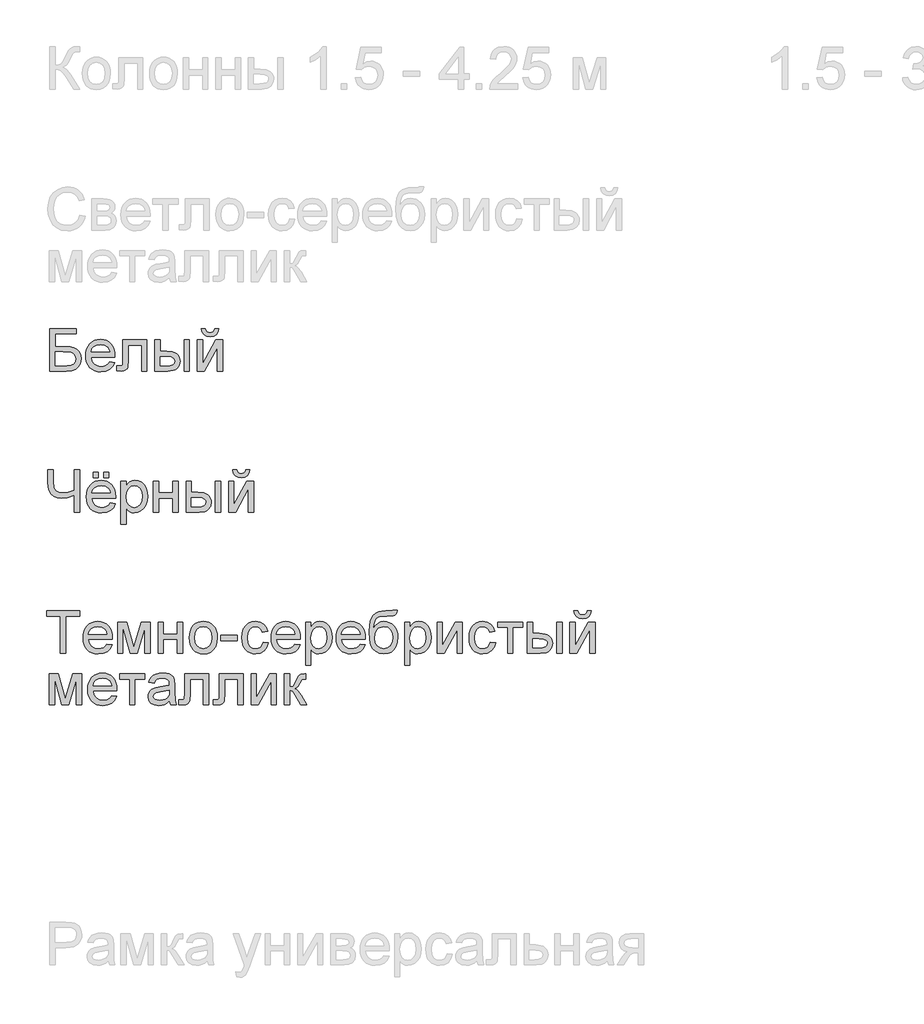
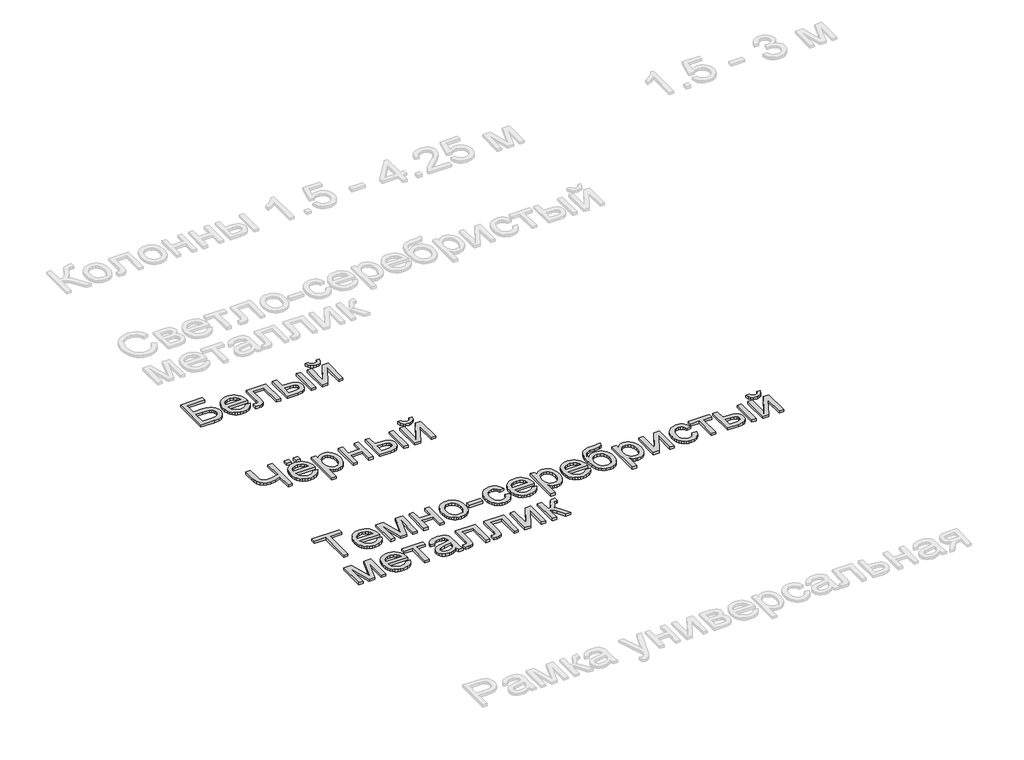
# One storey, part 8 of 168: 3 proxies.
"""IFC4 building model written with IfcOpenShell, lengths in millimetres."""

from ifc_helpers import new_model, si_unit, origin, origin_with_axes, place, context, project, spatial, polyline, outline, extrude, element, save

model = new_model("IFC4")

# Units and contexts
model_context = context("Model", 3, world=origin())
ifc_project = project(units=[si_unit("LENGTHUNIT", "METRE", prefix="MILLI")], contexts=[model_context])

# Site, building, storey
site = spatial("IfcSite", under=ifc_project)
building = spatial("IfcBuilding", under=site)
storey = spatial("IfcBuildingStorey", under=building, Name="Этаж 01", Elevation=0.0)

# Proxies
placement = place(None, origin())
element("IfcBuildingElementProxy", 1, Name="300 мм Arial 2", ObjectType="300 мм Arial 2", at=placement, inside=storey, context=model_context, shape_type="SweptSolid", body=[
    extrude(outline(polyline([(778.8177316, -38665.4933673), (967.1733131, -38665.4933673), (967.1733131, -38703.1644836), (816.4888479, -38703.1644836), (816.4888479, -38792.6333848), (887.0486145, -38792.6333848), (922.1261628, -38794.5463712), (949.2206717, -38800.2853303), (970.0243986, -38811.3401843), (986.2296004, -38829.2008551), (996.659055, -38852.1934798), (1000.1355399, -38878.6441953), (997.6615334, -38900.8550707), (990.2395142, -38921.5760241), (977.9062703, -38939.7218035), (960.69859, -38954.2071571), (934.155904, -38963.6985126), (893.8176433, -38966.8622977), (778.8177316, -38966.8622977), (778.8177316, -38665.4933673)]), holes=[polyline([(816.4888479, -38929.1911814), (897.2021576, -38929.1911814), (925.7314063, -38926.0825786), (946.130463, -38916.75677), (958.3809334, -38901.2137557), (962.4644236, -38879.4535357), (960.1283729, -38863.2483338), (953.1202209, -38849.9493997), (941.9458053, -38840.0901622), (927.1109638, -38834.2040503), (870.346772, -38830.3045011), (816.4888479, -38830.3045011), (816.4888479, -38929.1911814)])]), origin_with_axes(), (0.0, 0.0, 1.0), 20.0),
    extrude(outline(polyline([(1202.1763316, -38900.9378442), (1239.1116839, -38905.6467337), (1225.8035528, -38933.4770067), (1204.5675646, -38954.2807335), (1175.881966, -38967.2485738), (1140.2250036, -38971.5711873), (1116.8507014, -38969.7064854), (1096.0239819, -38964.1123798), (1077.7448453, -38954.7888705), (1062.0132914, -38941.7359575), (1049.3627493, -38925.3169242), (1040.3266478, -38905.8950541), (1034.9049869, -38883.4703472), (1033.0977666, -38858.0428036), (1034.923381, -38831.7530365), (1040.4002242, -38808.5810693), (1049.5282962, -38788.526902), (1062.307597, -38771.5905347), (1077.9977641, -38758.1352507), (1095.858435, -38748.5243336), (1115.8896096, -38742.7577833), (1138.0912881, -38740.8355999), (1159.5778958, -38742.7531848), (1179.008963, -38748.5059395), (1196.3844895, -38758.093864), (1211.7044753, -38771.5169583), (1224.2101639, -38788.4165374), (1233.1427986, -38808.4339165), (1238.5023794, -38831.5690955), (1240.2889063, -38857.8220744), (1240.0681771, -38867.9756174), (1070.7688829, -38867.9756174), (1077.2895913, -38896.1737724), (1092.4371325, -38916.9039228), (1114.29852, -38929.6510339), (1140.9607676, -38933.900071), (1161.0103364, -38931.9319023), (1177.8961199, -38926.0273963), (1191.6181184, -38915.8186709), (1202.1763316, -38900.9378442)]), holes=[polyline([(1070.7688829, -38830.3045011), (1202.61779, -38830.3045011), (1197.5226244, -38810.4020852), (1187.5346282, -38796.165052), (1165.5720731, -38782.9213001), (1137.9441353, -38778.5067162), (1112.5510805, -38782.0291863), (1091.5542157, -38792.5965966), (1076.9584975, -38809.068513), (1070.7688829, -38830.3045011)])]), origin_with_axes(), (0.0, 0.0, 1.0), 20.0),
    extrude(outline(polyline([(1296.7955808, -38745.5444894), (1466.3156041, -38745.5444894), (1466.3156041, -38966.6415685), (1428.6444878, -38966.6415685), (1428.6444878, -38783.2156057), (1334.4666971, -38783.2156057), (1334.4666971, -38888.7977384), (1331.9283113, -38937.5053145), (1327.1734365, -38948.5325773), (1317.9855837, -38958.069918), (1304.0428561, -38964.6642028), (1285.0233569, -38966.8622977), (1254.4155749, -38964.9493114), (1254.4155749, -38929.1911814), (1271.2645703, -38929.1911814), (1288.2975067, -38926.8735249), (1295.1033236, -38919.515885), (1296.7955808, -38886.6640228), (1296.7955808, -38745.5444894)])), origin_with_axes(), (0.0, 0.0, 1.0), 20.0),
    extrude(outline(polyline([(1730.0134183, -38745.5444894), (1767.6845346, -38745.5444894), (1767.6845346, -38966.8622977), (1730.0134183, -38966.8622977), (1730.0134183, -38745.5444894)])), origin_with_axes(), (0.0, 0.0, 1.0), 20.0),
    extrude(outline(polyline([(1522.8222786, -38745.5444894), (1560.4933949, -38745.5444894), (1560.4933949, -38825.5956116), (1607.0672555, -38825.5956116), (1647.3227428, -38830.3136982), (1663.539441, -38836.2113064), (1677.1487756, -38844.4679579), (1687.9162217, -38854.7985442), (1695.6072547, -38866.9179567), (1700.2218745, -38880.8261954), (1701.7600811, -38896.5232603), (1696.6005361, -38923.4798135), (1681.1219011, -38946.2241178), (1669.2600061, -38955.2533215), (1654.3125007, -38961.7027528), (1615.1606594, -38966.8622977), (1522.8222786, -38966.8622977), (1522.8222786, -38745.5444894)]), holes=[polyline([(1560.4933949, -38929.1911814), (1599.1945808, -38929.1911814), (1629.1953575, -38927.2138157), (1649.1529558, -38921.2817185), (1660.3549625, -38911.1557666), (1664.0889648, -38896.5968367), (1661.3206527, -38884.2911839), (1653.0157167, -38873.420271), (1635.2562134, -38865.8051137), (1604.1241995, -38863.2667279), (1560.4933949, -38863.2667279), (1560.4933949, -38929.1911814)])]), origin_with_axes(), (0.0, 0.0, 1.0), 20.0),
    extrude(outline(polyline([(1946.6223371, -38665.4933673), (1974.8756743, -38665.4933673), (1968.7964243, -38689.6172291), (1956.5919391, -38707.3951265), (1938.8140417, -38718.3488129), (1916.0145551, -38722.0000417), (1891.2744909, -38718.3764041), (1872.0894448, -38707.5054911), (1858.9744517, -38689.7551849), (1852.4445463, -38665.4933673), (1880.6978835, -38665.4933673), (1884.6710091, -38677.9001876), (1891.292885, -38686.7201584), (1900.6002995, -38691.990068), (1912.6300407, -38693.7467045), (1926.2048863, -38692.0452503), (1936.0273356, -38686.9408876), (1942.6492115, -38678.1760991), (1946.6223371, -38665.4933673)])), origin_with_axes(), (0.0, 0.0, 1.0), 20.0),
    extrude(outline(polyline([(1824.1912091, -38745.5444894), (1861.8623254, -38745.5444894), (1861.8623254, -38914.3287488), (1954.4214353, -38745.5444894), (2003.1290115, -38745.5444894), (2003.1290115, -38966.8622977), (1965.4578952, -38966.8622977), (1965.4578952, -38799.1081079), (1873.4873964, -38966.8622977), (1824.1912091, -38966.8622977), (1824.1912091, -38745.5444894)])), origin_with_axes(), (0.0, 0.0, 1.0), 20.0),
])
element("IfcBuildingElementProxy", 2, Name="300 мм Arial 2", ObjectType="300 мм Arial 2", at=placement, inside=storey, context=model_context, shape_type="SweptSolid", body=[
    extrude(outline(polyline([(990.7177608, -39966.8622977), (953.0466445, -39966.8622977), (953.0466445, -39846.1970033), (903.0882695, -39862.5309639), (859.7517705, -39867.9756174), (830.3855902, -39864.2508122), (804.6798358, -39853.0763966), (784.7590258, -39836.1722189), (772.7476786, -39815.2581275), (766.7052169, -39788.798215), (764.6910629, -39755.2565741), (764.6910629, -39665.4933673), (802.3621793, -39665.4933673), (802.3621793, -39750.1798026), (806.8871278, -39790.9135365), (812.5433135, -39804.968928), (820.4619734, -39814.8166691), (840.3827835, -39826.4325431), (863.9456252, -39830.3045011), (907.410883, -39825.6323998), (953.0466445, -39811.6160958), (953.0466445, -39665.4933673), (990.7177608, -39665.4933673), (990.7177608, -39966.8622977)])), origin_with_axes(), (0.0, 0.0, 1.0), 20.0),
    extrude(outline(polyline([(1206.8852212, -39900.9378442), (1243.8205735, -39905.6467337), (1230.5124423, -39933.4770067), (1209.2764541, -39954.2807335), (1180.5908555, -39967.2485738), (1144.9338932, -39971.5711873), (1121.5595909, -39969.7064854), (1100.7328714, -39964.1123798), (1082.4537348, -39954.7888705), (1066.722181, -39941.7359575), (1054.0716389, -39925.3169242), (1045.0355374, -39905.8950541), (1039.6138765, -39883.4703472), (1037.8066562, -39858.0428036), (1039.6322706, -39831.7530365), (1045.1091138, -39808.5810693), (1054.2371858, -39788.526902), (1067.0164866, -39771.5905347), (1082.7066537, -39758.1352507), (1100.5673245, -39748.5243336), (1120.5984992, -39742.7577833), (1142.8001776, -39740.8355999), (1164.2867854, -39742.7531848), (1183.7178525, -39748.5059395), (1201.093379, -39758.093864), (1216.4133648, -39771.5169583), (1228.9190534, -39788.4165374), (1237.8516881, -39808.4339165), (1243.2112689, -39831.5690955), (1244.9977959, -39857.8220744), (1244.7770667, -39867.9756174), (1075.4777725, -39867.9756174), (1081.9984808, -39896.1737724), (1097.146022, -39916.9039228), (1119.0074096, -39929.6510339), (1145.6696572, -39933.900071), (1165.7192259, -39931.9319023), (1182.6050095, -39926.0273963), (1196.3270079, -39915.8186709), (1206.8852212, -39900.9378442)]), holes=[polyline([(1075.4777725, -39830.3045011), (1207.3266795, -39830.3045011), (1202.2315139, -39810.4020852), (1192.2435177, -39796.165052), (1170.2809626, -39782.9213001), (1142.6530248, -39778.5067162), (1117.2599701, -39782.0291863), (1096.2631052, -39792.5965966), (1081.667387, -39809.068513), (1075.4777725, -39830.3045011)])]), origin_with_axes(), (0.0, 0.0, 1.0), 20.0),
    extrude(outline(polyline([(1084.8955515, -39722.0000417), (1084.8955515, -39684.3289254), (1122.5666679, -39684.3289254), (1122.5666679, -39722.0000417), (1084.8955515, -39722.0000417)])), origin_with_axes(), (0.0, 0.0, 1.0), 20.0),
    extrude(outline(polyline([(1160.2377842, -39722.0000417), (1160.2377842, -39684.3289254), (1197.9089005, -39684.3289254), (1197.9089005, -39722.0000417), (1160.2377842, -39722.0000417)])), origin_with_axes(), (0.0, 0.0, 1.0), 20.0),
    extrude(outline(polyline([(1282.6689122, -40051.6223094), (1282.6689122, -39745.5444894), (1320.3400285, -39745.5444894), (1320.3400285, -39782.4798418), (1332.6272871, -39764.2604859), (1346.3860737, -39751.2466604), (1362.4257287, -39743.438365), (1381.5555925, -39740.8355999), (1407.0314206, -39744.4776316), (1429.3066754, -39755.4037269), (1447.4432578, -39772.9516981), (1460.5030686, -39796.4593576), (1468.3941374, -39824.2160541), (1471.0244937, -39854.5111364), (1468.0538466, -39886.7284021), (1459.1419052, -39915.5427594), (1444.5737782, -39939.4918773), (1424.6345741, -39957.1134249), (1401.4120231, -39967.9567467), (1376.9938557, -39971.5711873), (1359.6758108, -39969.1523632), (1344.2155699, -39961.8958908), (1330.9810152, -39950.9422044), (1320.3400285, -39937.4317381), (1320.3400285, -40051.6223094), (1282.6689122, -40051.6223094)]), holes=[polyline([(1320.3400285, -39857.9692272), (1324.4143216, -39891.7407943), (1336.6372008, -39915.3588184), (1354.6726157, -39929.2647578), (1376.1845153, -39933.900071), (1398.0459029, -39929.0992109), (1416.5411702, -39914.6966308), (1429.1503256, -39890.214084), (1433.3533774, -39855.173324), (1429.2514931, -39821.5856978), (1416.9458404, -39797.63658), (1398.9380167, -39783.2891821), (1377.7296197, -39778.5067162), (1356.4384492, -39783.5926848), (1337.7408468, -39798.8505905), (1324.6902331, -39823.8021869), (1320.3400285, -39857.9692272)])]), origin_with_axes(), (0.0, 0.0, 1.0), 20.0),
    extrude(outline(polyline([(1513.4044995, -39745.5444894), (1551.0756158, -39745.5444894), (1551.0756158, -39830.3045011), (1649.9622961, -39830.3045011), (1649.9622961, -39745.5444894), (1687.6334124, -39745.5444894), (1687.6334124, -39966.8622977), (1649.9622961, -39966.8622977), (1649.9622961, -39867.9756174), (1551.0756158, -39867.9756174), (1551.0756158, -39966.8622977), (1513.4044995, -39966.8622977), (1513.4044995, -39745.5444894)])), origin_with_axes(), (0.0, 0.0, 1.0), 20.0),
    extrude(outline(polyline([(1951.3312266, -39745.5444894), (1989.0023429, -39745.5444894), (1989.0023429, -39966.8622977), (1951.3312266, -39966.8622977), (1951.3312266, -39745.5444894)])), origin_with_axes(), (0.0, 0.0, 1.0), 20.0),
    extrude(outline(polyline([(1744.1400869, -39745.5444894), (1781.8112032, -39745.5444894), (1781.8112032, -39825.5956116), (1828.3850638, -39825.5956116), (1868.6405511, -39830.3136982), (1884.8572493, -39836.2113064), (1898.4665839, -39844.4679579), (1909.23403, -39854.7985442), (1916.925063, -39866.9179567), (1921.5396828, -39880.8261954), (1923.0778894, -39896.5232603), (1917.9183444, -39923.4798135), (1902.4397094, -39946.2241178), (1890.5778143, -39955.2533215), (1875.630309, -39961.7027528), (1836.4784677, -39966.8622977), (1744.1400869, -39966.8622977), (1744.1400869, -39745.5444894)]), holes=[polyline([(1781.8112032, -39929.1911814), (1820.5123891, -39929.1911814), (1850.5131658, -39927.2138157), (1870.4707641, -39921.2817185), (1881.6727708, -39911.1557666), (1885.4067731, -39896.5968367), (1882.638461, -39884.2911839), (1874.333525, -39873.420271), (1856.5740217, -39865.8051137), (1825.4420078, -39863.2667279), (1781.8112032, -39863.2667279), (1781.8112032, -39929.1911814)])]), origin_with_axes(), (0.0, 0.0, 1.0), 20.0),
    extrude(outline(polyline([(2045.5090174, -39745.5444894), (2083.1801337, -39745.5444894), (2083.1801337, -39914.3287488), (2175.7392436, -39745.5444894), (2224.4468198, -39745.5444894), (2224.4468198, -39966.8622977), (2186.7757035, -39966.8622977), (2186.7757035, -39799.1081079), (2094.8052047, -39966.8622977), (2045.5090174, -39966.8622977), (2045.5090174, -39745.5444894)])), origin_with_axes(), (0.0, 0.0, 1.0), 20.0),
    extrude(outline(polyline([(2167.9401454, -39665.4933673), (2196.1934826, -39665.4933673), (2190.1142326, -39689.6172291), (2177.9097474, -39707.3951265), (2160.13185, -39718.3488129), (2137.3323634, -39722.0000417), (2112.5922992, -39718.3764041), (2093.4072531, -39707.5054911), (2080.29226, -39689.7551849), (2073.7623546, -39665.4933673), (2102.0156918, -39665.4933673), (2105.9888174, -39677.9001876), (2112.6106933, -39686.7201584), (2121.9181078, -39691.990068), (2133.947849, -39693.7467045), (2147.5226946, -39692.0452503), (2157.3451439, -39686.9408876), (2163.9670198, -39678.1760991), (2167.9401454, -39665.4933673)])), origin_with_axes(), (0.0, 0.0, 1.0), 20.0),
])
element("IfcBuildingElementProxy", 3, Name="300 мм Arial 2", ObjectType="300 мм Arial 2", at=placement, inside=storey, context=model_context, shape_type="SweptSolid", body=[
    extrude(outline(polyline([(854.1599642, -40966.8622977), (854.1599642, -40703.1644836), (755.2732839, -40703.1644836), (755.2732839, -40665.4933673), (990.7177608, -40665.4933673), (990.7177608, -40703.1644836), (891.8310805, -40703.1644836), (891.8310805, -40966.8622977), (854.1599642, -40966.8622977)])), origin_with_axes(), (0.0, 0.0, 1.0), 20.0),
    extrude(outline(polyline([(1183.3407735, -40900.9378442), (1220.2761258, -40905.6467337), (1206.9679946, -40933.4770067), (1185.7320064, -40954.2807335), (1157.0464079, -40967.2485738), (1121.3894455, -40971.5711873), (1098.0151432, -40969.7064854), (1077.1884238, -40964.1123798), (1058.9092871, -40954.7888705), (1043.1777333, -40941.7359575), (1030.5271912, -40925.3169242), (1021.4910897, -40905.8950541), (1016.0694288, -40883.4703472), (1014.2622085, -40858.0428036), (1016.0878229, -40831.7530365), (1021.5646661, -40808.5810693), (1030.6927381, -40788.526902), (1043.4720389, -40771.5905347), (1059.162206, -40758.1352507), (1077.0228769, -40748.5243336), (1097.0540515, -40742.7577833), (1119.2557299, -40740.8355999), (1140.7423377, -40742.7531848), (1160.1734048, -40748.5059395), (1177.5489313, -40758.093864), (1192.8689171, -40771.5169583), (1205.3746057, -40788.4165374), (1214.3072404, -40808.4339165), (1219.6668212, -40831.5690955), (1221.4533482, -40857.8220744), (1221.232619, -40867.9756174), (1051.9333248, -40867.9756174), (1058.4540331, -40896.1737724), (1073.6015743, -40916.9039228), (1095.4629619, -40929.6510339), (1122.1252095, -40933.900071), (1142.1747782, -40931.9319023), (1159.0605618, -40926.0273963), (1172.7825602, -40915.8186709), (1183.3407735, -40900.9378442)]), holes=[polyline([(1051.9333248, -40830.3045011), (1183.7822319, -40830.3045011), (1178.6870662, -40810.4020852), (1168.6990701, -40796.165052), (1146.7365149, -40782.9213001), (1119.1085771, -40778.5067162), (1093.7155224, -40782.0291863), (1072.7186575, -40792.5965966), (1058.1229394, -40809.068513), (1051.9333248, -40830.3045011)])]), origin_with_axes(), (0.0, 0.0, 1.0), 20.0),
    extrude(outline(polyline([(1259.1244645, -40745.5444894), (1323.945272, -40745.5444894), (1373.903647, -40922.7164583), (1427.7615711, -40745.5444894), (1489.8600518, -40745.5444894), (1489.8600518, -40966.8622977), (1452.1889355, -40966.8622977), (1452.1889355, -40788.6602593), (1398.0367058, -40966.8622977), (1348.5933657, -40966.8622977), (1296.7955808, -40780.125397), (1296.7955808, -40966.8622977), (1259.1244645, -40966.8622977), (1259.1244645, -40745.5444894)])), origin_with_axes(), (0.0, 0.0, 1.0), 20.0),
    extrude(outline(polyline([(1546.3667263, -40745.5444894), (1584.0378426, -40745.5444894), (1584.0378426, -40830.3045011), (1682.9245229, -40830.3045011), (1682.9245229, -40745.5444894), (1720.5956392, -40745.5444894), (1720.5956392, -40966.8622977), (1682.9245229, -40966.8622977), (1682.9245229, -40867.9756174), (1584.0378426, -40867.9756174), (1584.0378426, -40966.8622977), (1546.3667263, -40966.8622977), (1546.3667263, -40745.5444894)])), origin_with_axes(), (0.0, 0.0, 1.0), 20.0),
    extrude(outline(polyline([(1767.6845346, -40856.2033936), (1769.7216811, -40827.5407876), (1775.8331208, -40802.8421102), (1786.0188535, -40782.1073612), (1800.2788794, -40765.3365408), (1814.6354742, -40754.6173791), (1830.4819912, -40746.9608351), (1847.8184302, -40742.3669087), (1866.6447913, -40740.8355999), (1887.4278248, -40742.7003018), (1906.2196969, -40748.2944073), (1923.0204078, -40757.6179167), (1937.8299574, -40770.6708297), (1949.9171802, -40787.0116881), (1958.5509107, -40806.1990334), (1963.7311491, -40828.2328656), (1965.4578952, -40853.1131848), (1962.4044746, -40891.1705772), (1953.244213, -40920.1412843), (1938.2438246, -40941.837125), (1917.670024, -40958.069918), (1893.2334625, -40968.19587), (1866.6447913, -40971.5711873), (1845.5582552, -40969.7133832), (1826.5916391, -40964.139971), (1809.744943, -40954.8509506), (1795.0181668, -40941.8463221), (1783.0597027, -40925.3468146), (1774.5179427, -40905.5731573), (1769.3928866, -40882.5253503), (1767.6845346, -40856.2033936)]), holes=[polyline([(1805.3556509, -40856.1298172), (1809.7150525, -40890.2232811), (1822.7932575, -40914.5126898), (1842.4749442, -40929.0532257), (1866.6447913, -40933.900071), (1890.7042738, -40929.0256345), (1910.3491723, -40914.4023252), (1923.4273773, -40889.7910197), (1927.7867789, -40854.9525948), (1923.3997861, -40821.8524123), (1910.2388077, -40797.8940973), (1890.566318, -40783.3535615), (1866.6447913, -40778.5067162), (1842.4749442, -40783.3351674), (1822.7932575, -40797.8205209), (1809.7150525, -40822.0547474), (1805.3556509, -40856.1298172)])]), origin_with_axes(), (0.0, 0.0, 1.0), 20.0),
    extrude(outline(polyline([(1989.0023429, -40877.3933965), (1989.0023429, -40839.7222802), (2106.7245814, -40839.7222802), (2106.7245814, -40877.3933965), (1989.0023429, -40877.3933965)])), origin_with_axes(), (0.0, 0.0, 1.0), 20.0),
    extrude(outline(polyline([(2290.3712733, -40886.8111756), (2328.0423897, -40891.5200651), (2317.5393587, -40925.0249178), (2297.8024896, -40950.3443962), (2270.6895866, -40966.2644895), (2238.0584536, -40971.5711873), (2216.9305308, -40969.720281), (2197.9869073, -40964.1675621), (2181.2275832, -40954.9130307), (2166.6525584, -40941.9566867), (2154.8550426, -40925.5422519), (2146.4282457, -40905.9134482), (2141.3721675, -40883.0702755), (2139.6868081, -40857.012734), (2142.5654847, -40823.4894872), (2151.2015146, -40794.4360066), (2165.7328534, -40770.9743324), (2186.2974569, -40754.2265045), (2210.8995653, -40744.1833261), (2237.5434188, -40740.8355999), (2269.3744085, -40745.4341248), (2294.8226455, -40759.2296997), (2313.0787895, -40781.4865604), (2323.3335001, -40811.468943), (2285.6623838, -40816.1778325), (2278.8289757, -40799.7427044), (2268.187989, -40787.9612835), (2254.3280349, -40780.870358), (2237.8377244, -40778.5067162), (2213.4931334, -40783.1604234), (2194.1701316, -40797.1215452), (2181.5609762, -40821.1442394), (2177.3579244, -40855.9826644), (2181.4690057, -40891.2901389), (2193.8022496, -40915.3956066), (2212.7757635, -40929.2739549), (2236.8076548, -40933.900071), (2256.3145976, -40931.0121973), (2272.3082674, -40922.3485763), (2283.9425355, -40907.6884788), (2290.3712733, -40886.8111756)])), origin_with_axes(), (0.0, 0.0, 1.0), 20.0),
    extrude(outline(polyline([(2515.9565128, -40900.9378442), (2552.8918651, -40905.6467337), (2539.5837339, -40933.4770067), (2518.3477458, -40954.2807335), (2489.6621472, -40967.2485738), (2454.0051848, -40971.5711873), (2430.6308825, -40969.7064854), (2409.8041631, -40964.1123798), (2391.5250264, -40954.7888705), (2375.7934726, -40941.7359575), (2363.1429305, -40925.3169242), (2354.106829, -40905.8950541), (2348.6851681, -40883.4703472), (2346.8779478, -40858.0428036), (2348.7035622, -40831.7530365), (2354.1804054, -40808.5810693), (2363.3084774, -40788.526902), (2376.0877782, -40771.5905347), (2391.7779453, -40758.1352507), (2409.6386162, -40748.5243336), (2429.6697908, -40742.7577833), (2451.8714692, -40740.8355999), (2473.358077, -40742.7531848), (2492.7891441, -40748.5059395), (2510.1646706, -40758.093864), (2525.4846565, -40771.5169583), (2537.990345, -40788.4165374), (2546.9229797, -40808.4339165), (2552.2825605, -40831.5690955), (2554.0690875, -40857.8220744), (2553.8483583, -40867.9756174), (2384.5490641, -40867.9756174), (2391.0697725, -40896.1737724), (2406.2173136, -40916.9039228), (2428.0787012, -40929.6510339), (2454.7409488, -40933.900071), (2474.7905175, -40931.9319023), (2491.6763011, -40926.0273963), (2505.3982995, -40915.8186709), (2515.9565128, -40900.9378442)]), holes=[polyline([(2384.5490641, -40830.3045011), (2516.3979712, -40830.3045011), (2511.3028055, -40810.4020852), (2501.3148094, -40796.165052), (2479.3522543, -40782.9213001), (2451.7243164, -40778.5067162), (2426.3312617, -40782.0291863), (2405.3343968, -40792.5965966), (2390.7386787, -40809.068513), (2384.5490641, -40830.3045011)])]), origin_with_axes(), (0.0, 0.0, 1.0), 20.0),
    extrude(outline(polyline([(2591.7402038, -41051.6223094), (2591.7402038, -40745.5444894), (2629.4113201, -40745.5444894), (2629.4113201, -40782.4798418), (2641.6985787, -40764.2604859), (2655.4573654, -40751.2466604), (2671.4970203, -40743.438365), (2690.6268841, -40740.8355999), (2716.1027123, -40744.4776316), (2738.3779671, -40755.4037269), (2756.5145494, -40772.9516981), (2769.5743603, -40796.4593576), (2777.4654291, -40824.2160541), (2780.0957853, -40854.5111364), (2777.1251382, -40886.7284021), (2768.2131969, -40915.5427594), (2753.6450699, -40939.4918773), (2733.7058657, -40957.1134249), (2710.4833148, -40967.9567467), (2686.0651474, -40971.5711873), (2668.7471024, -40969.1523632), (2653.2868616, -40961.8958908), (2640.0523068, -40950.9422044), (2629.4113201, -40937.4317381), (2629.4113201, -41051.6223094), (2591.7402038, -41051.6223094)]), holes=[polyline([(2629.4113201, -40857.9692272), (2633.4856132, -40891.7407943), (2645.7084925, -40915.3588184), (2663.7439073, -40929.2647578), (2685.255807, -40933.900071), (2707.1171945, -40929.0992109), (2725.6124618, -40914.6966308), (2738.2216172, -40890.214084), (2742.424669, -40855.173324), (2738.3227848, -40821.5856978), (2726.017132, -40797.63658), (2708.0093084, -40783.2891821), (2686.8009113, -40778.5067162), (2665.5097409, -40783.5926848), (2646.8121385, -40798.8505905), (2633.7615247, -40823.8021869), (2629.4113201, -40857.9692272)])]), origin_with_axes(), (0.0, 0.0, 1.0), 20.0),
    extrude(outline(polyline([(2977.4276875, -40900.9378442), (3014.3630399, -40905.6467337), (3001.0549087, -40933.4770067), (2979.8189205, -40954.2807335), (2951.1333219, -40967.2485738), (2915.4763595, -40971.5711873), (2892.1020573, -40969.7064854), (2871.2753378, -40964.1123798), (2852.9962012, -40954.7888705), (2837.2646474, -40941.7359575), (2824.6141053, -40925.3169242), (2815.5780038, -40905.8950541), (2810.1563429, -40883.4703472), (2808.3491226, -40858.0428036), (2810.174737, -40831.7530365), (2815.6515802, -40808.5810693), (2824.7796522, -40788.526902), (2837.558953, -40771.5905347), (2853.2491201, -40758.1352507), (2871.1097909, -40748.5243336), (2891.1409656, -40742.7577833), (2913.342644, -40740.8355999), (2934.8292518, -40742.7531848), (2954.2603189, -40748.5059395), (2971.6358454, -40758.093864), (2986.9558312, -40771.5169583), (2999.4615198, -40788.4165374), (3008.3941545, -40808.4339165), (3013.7537353, -40831.5690955), (3015.5402622, -40857.8220744), (3015.319533, -40867.9756174), (2846.0202389, -40867.9756174), (2852.5409472, -40896.1737724), (2867.6884884, -40916.9039228), (2889.5498759, -40929.6510339), (2916.2121235, -40933.900071), (2936.2616923, -40931.9319023), (2953.1474759, -40926.0273963), (2966.8694743, -40915.8186709), (2977.4276875, -40900.9378442)]), holes=[polyline([(2846.0202389, -40830.3045011), (2977.8691459, -40830.3045011), (2972.7739803, -40810.4020852), (2962.7859841, -40796.165052), (2940.823429, -40782.9213001), (2913.1954912, -40778.5067162), (2887.8024365, -40782.0291863), (2866.8055716, -40792.5965966), (2852.2098534, -40809.068513), (2846.0202389, -40830.3045011)])]), origin_with_axes(), (0.0, 0.0, 1.0), 20.0),
    extrude(outline(polyline([(3208.6047333, -40660.7844777), (3241.5669601, -40660.7844777), (3237.9985047, -40678.6911339), (3231.8548754, -40690.1782492), (3223.3384072, -40696.974869), (3212.6514353, -40700.8100388), (3166.5190331, -40703.1644836), (3128.2133203, -40705.3349874), (3104.3837641, -40711.8464987), (3090.1283368, -40723.1404759), (3080.5450108, -40739.6583775), (3074.9072192, -40761.5289621), (3072.4883951, -40788.8809885), (3087.6359362, -40767.8381383), (3105.1195281, -40752.8285529), (3124.9575647, -40743.8338382), (3147.1684401, -40740.8355999), (3167.6916569, -40742.7416885), (3186.3662667, -40748.4599542), (3203.1922695, -40757.9903972), (3218.1696652, -40771.3330173), (3230.4661209, -40787.9267945), (3239.2493035, -40807.2107089), (3244.5192131, -40829.1847603), (3246.2758496, -40853.8489488), (3242.7901677, -40889.8094138), (3232.333122, -40918.6697564), (3217.0936103, -40941.101361), (3199.2605306, -40957.7756125), (3176.6725761, -40968.1222936), (3147.1684401, -40971.5711873), (3113.1669467, -40967.1290122), (3087.6819215, -40953.8024869), (3068.9291368, -40933.5505831), (3055.1243649, -40908.3322723), (3046.6262908, -40870.3576533), (3043.7935995, -40811.836825), (3045.5801264, -40772.1722481), (3050.9397072, -40739.55721), (3059.8723419, -40713.9917106), (3072.3780305, -40695.4757499), (3088.5901302, -40682.3584575), (3108.6419982, -40672.9889629), (3132.5336345, -40667.3672662), (3160.2650391, -40665.4933673), (3202.2035866, -40664.6472387), (3208.6047333, -40660.7844777)]), holes=[polyline([(3208.6047333, -40852.6717264), (3204.5212432, -40823.0296347), (3192.2707727, -40799.2920489), (3172.589086, -40783.7030494), (3146.2119469, -40778.5067162), (3118.7127678, -40783.997355), (3107.6257242, -40790.8606535), (3098.3137112, -40800.4692713), (3085.6769646, -40826.1198434), (3081.4647158, -40859.1464495), (3086.118423, -40891.1613802), (3100.0795447, -40914.6598426), (3120.8648775, -40929.0900139), (3145.9912177, -40933.900071), (3171.2463167, -40928.3358558), (3191.2407031, -40911.6432103), (3204.2637258, -40885.7719089), (3208.6047333, -40852.6717264)])]), origin_with_axes(), (0.0, 0.0, 1.0), 20.0),
    extrude(outline(polyline([(3293.364745, -41051.6223094), (3293.364745, -40745.5444894), (3331.0358613, -40745.5444894), (3331.0358613, -40782.4798418), (3343.3231199, -40764.2604859), (3357.0819066, -40751.2466604), (3373.1215615, -40743.438365), (3392.2514253, -40740.8355999), (3417.7272535, -40744.4776316), (3440.0025083, -40755.4037269), (3458.1390906, -40772.9516981), (3471.1989015, -40796.4593576), (3479.0899703, -40824.2160541), (3481.7203265, -40854.5111364), (3478.7496794, -40886.7284021), (3469.8377381, -40915.5427594), (3455.2696111, -40939.4918773), (3435.3304069, -40957.1134249), (3412.107856, -40967.9567467), (3387.6896886, -40971.5711873), (3370.3716436, -40969.1523632), (3354.9114028, -40961.8958908), (3341.676848, -40950.9422044), (3331.0358613, -40937.4317381), (3331.0358613, -41051.6223094), (3293.364745, -41051.6223094)]), holes=[polyline([(3331.0358613, -40857.9692272), (3335.1101544, -40891.7407943), (3347.3330337, -40915.3588184), (3365.3684485, -40929.2647578), (3386.8803482, -40933.900071), (3408.7417357, -40929.0992109), (3427.237003, -40914.6966308), (3439.8461584, -40890.214084), (3444.0492102, -40855.173324), (3439.947326, -40821.5856978), (3427.6416732, -40797.63658), (3409.6338496, -40783.2891821), (3388.4254525, -40778.5067162), (3367.1342821, -40783.5926848), (3348.4366797, -40798.8505905), (3335.3860659, -40823.8021869), (3331.0358613, -40857.9692272)])]), origin_with_axes(), (0.0, 0.0, 1.0), 20.0),
    extrude(outline(polyline([(3524.1003324, -40745.5444894), (3561.7714487, -40745.5444894), (3561.7714487, -40914.3287488), (3654.3305587, -40745.5444894), (3703.0381348, -40745.5444894), (3703.0381348, -40966.8622977), (3665.3670185, -40966.8622977), (3665.3670185, -40799.1081079), (3573.3965197, -40966.8622977), (3524.1003324, -40966.8622977), (3524.1003324, -40745.5444894)])), origin_with_axes(), (0.0, 0.0, 1.0), 20.0),
    extrude(outline(polyline([(3900.8114954, -40886.8111756), (3938.4826117, -40891.5200651), (3927.9795808, -40925.0249178), (3908.2427117, -40950.3443962), (3881.1298087, -40966.2644895), (3848.4986757, -40971.5711873), (3827.3707529, -40969.720281), (3808.4271294, -40964.1675621), (3791.6678052, -40954.9130307), (3777.0927805, -40941.9566867), (3765.2952647, -40925.5422519), (3756.8684678, -40905.9134482), (3751.8123896, -40883.0702755), (3750.1270302, -40857.012734), (3753.0057068, -40823.4894872), (3761.6417367, -40794.4360066), (3776.1730755, -40770.9743324), (3796.737679, -40754.2265045), (3821.3397874, -40744.1833261), (3847.9836409, -40740.8355999), (3879.8146306, -40745.4341248), (3905.2628676, -40759.2296997), (3923.5190116, -40781.4865604), (3933.7737222, -40811.468943), (3896.1026059, -40816.1778325), (3889.2691978, -40799.7427044), (3878.6282111, -40787.9612835), (3864.768257, -40780.870358), (3848.2779465, -40778.5067162), (3823.9333555, -40783.1604234), (3804.6103537, -40797.1215452), (3792.0011983, -40821.1442394), (3787.7981465, -40855.9826644), (3791.9092278, -40891.2901389), (3804.2424717, -40915.3956066), (3823.2159856, -40929.2739549), (3847.2478769, -40933.900071), (3866.7548197, -40931.0121973), (3882.7484895, -40922.3485763), (3894.3827576, -40907.6884788), (3900.8114954, -40886.8111756)])), origin_with_axes(), (0.0, 0.0, 1.0), 20.0),
    extrude(outline(polyline([(3952.6092804, -40745.5444894), (4131.5470828, -40745.5444894), (4131.5470828, -40783.2156057), (4060.9137397, -40783.2156057), (4060.9137397, -40966.8622977), (4023.2426234, -40966.8622977), (4023.2426234, -40783.2156057), (3952.6092804, -40783.2156057), (3952.6092804, -40745.5444894)])), origin_with_axes(), (0.0, 0.0, 1.0), 20.0),
    extrude(outline(polyline([(4371.7004493, -40745.5444894), (4409.3715656, -40745.5444894), (4409.3715656, -40966.8622977), (4371.7004493, -40966.8622977), (4371.7004493, -40745.5444894)])), origin_with_axes(), (0.0, 0.0, 1.0), 20.0),
    extrude(outline(polyline([(4164.5093096, -40745.5444894), (4202.1804259, -40745.5444894), (4202.1804259, -40825.5956116), (4248.7542865, -40825.5956116), (4289.0097738, -40830.3136982), (4305.226472, -40836.2113064), (4318.8358066, -40844.4679579), (4329.6032527, -40854.7985442), (4337.2942857, -40866.9179567), (4341.9089054, -40880.8261954), (4343.447112, -40896.5232603), (4338.287567, -40923.4798135), (4322.8089321, -40946.2241178), (4310.947037, -40955.2533215), (4295.9995317, -40961.7027528), (4256.8476904, -40966.8622977), (4164.5093096, -40966.8622977), (4164.5093096, -40745.5444894)]), holes=[polyline([(4202.1804259, -40929.1911814), (4240.8816118, -40929.1911814), (4270.8823885, -40927.2138157), (4290.8399867, -40921.2817185), (4302.0419935, -40911.1557666), (4305.7759957, -40896.5968367), (4303.0076837, -40884.2911839), (4294.7027477, -40873.420271), (4276.9432443, -40865.8051137), (4245.8112305, -40863.2667279), (4202.1804259, -40863.2667279), (4202.1804259, -40929.1911814)])]), origin_with_axes(), (0.0, 0.0, 1.0), 20.0),
    extrude(outline(polyline([(4465.87824, -40745.5444894), (4503.5493563, -40745.5444894), (4503.5493563, -40914.3287488), (4596.1084663, -40745.5444894), (4644.8160425, -40745.5444894), (4644.8160425, -40966.8622977), (4607.1449262, -40966.8622977), (4607.1449262, -40799.1081079), (4515.1744274, -40966.8622977), (4465.87824, -40966.8622977), (4465.87824, -40745.5444894)])), origin_with_axes(), (0.0, 0.0, 1.0), 20.0),
    extrude(outline(polyline([(4588.309368, -40665.4933673), (4616.5627052, -40665.4933673), (4610.4834553, -40689.6172291), (4598.2789701, -40707.3951265), (4580.5010727, -40718.3488129), (4557.701586, -40722.0000417), (4532.9615218, -40718.3764041), (4513.7764758, -40707.5054911), (4500.6614827, -40689.7551849), (4494.1315773, -40665.4933673), (4522.3849145, -40665.4933673), (4526.35804, -40677.9001876), (4532.9799159, -40686.7201584), (4542.2873304, -40691.990068), (4554.3170717, -40693.7467045), (4567.8919173, -40692.0452503), (4577.7143666, -40686.9408876), (4584.3362425, -40678.1760991), (4588.309368, -40665.4933673)])), origin_with_axes(), (0.0, 0.0, 1.0), 20.0),
    extrude(outline(polyline([(774.108842, -41111.468943), (838.9296496, -41111.468943), (888.8880245, -41288.6409118), (942.7459486, -41111.468943), (1004.8444294, -41111.468943), (1004.8444294, -41332.7867513), (967.1733131, -41332.7867513), (967.1733131, -41154.5847128), (913.0210834, -41332.7867513), (863.5777433, -41332.7867513), (811.7799583, -41146.0498505), (811.7799583, -41332.7867513), (774.108842, -41332.7867513), (774.108842, -41111.468943)])), origin_with_axes(), (0.0, 0.0, 1.0), 20.0),
    extrude(outline(polyline([(1216.3030002, -41266.8622977), (1253.2383525, -41271.5711873), (1239.9302214, -41299.4014602), (1218.6942332, -41320.205187), (1190.0086346, -41333.1730274), (1154.3516722, -41337.4956408), (1130.97737, -41335.6309389), (1110.1506505, -41330.0368334), (1091.8715139, -41320.713324), (1076.1399601, -41307.660411), (1063.489418, -41291.2413777), (1054.4533164, -41271.8195076), (1049.0316555, -41249.3948008), (1047.2244352, -41223.9672571), (1049.0500496, -41197.67749), (1054.5268928, -41174.5055228), (1063.6549649, -41154.4513556), (1076.4342657, -41137.5149882), (1092.1244328, -41124.0597043), (1109.9851036, -41114.4487871), (1130.0162783, -41108.6822369), (1152.2179567, -41106.7600534), (1173.7045644, -41108.6776383), (1193.1356316, -41114.430393), (1210.5111581, -41124.0183175), (1225.8311439, -41137.4414118), (1238.3368325, -41154.340991), (1247.2694672, -41174.35837), (1252.629048, -41197.493549), (1254.4155749, -41223.7465279), (1254.1948457, -41233.900071), (1084.8955515, -41233.900071), (1091.4162599, -41262.0982259), (1106.5638011, -41282.8283763), (1128.4251886, -41295.5754875), (1155.0874362, -41299.8245245), (1175.137005, -41297.8563558), (1192.0227885, -41291.9518498), (1205.744787, -41281.7431244), (1216.3030002, -41266.8622977)]), holes=[polyline([(1084.8955515, -41196.2289547), (1216.7444586, -41196.2289547), (1211.649293, -41176.3265387), (1201.6612968, -41162.0895055), (1179.6987417, -41148.8457537), (1152.0708039, -41144.4311697), (1126.6777492, -41147.9536398), (1105.6808843, -41158.5210502), (1091.0851661, -41174.9929665), (1084.8955515, -41196.2289547)])]), origin_with_axes(), (0.0, 0.0, 1.0), 20.0),
    extrude(outline(polyline([(1273.2511331, -41111.468943), (1452.1889355, -41111.468943), (1452.1889355, -41149.1400593), (1381.5555925, -41149.1400593), (1381.5555925, -41332.7867513), (1343.8844762, -41332.7867513), (1343.8844762, -41149.1400593), (1273.2511331, -41149.1400593), (1273.2511331, -41111.468943)])), origin_with_axes(), (0.0, 0.0, 1.0), 20.0),
    extrude(outline(polyline([(1626.4178484, -41304.533414), (1608.4192218, -41319.9660637), (1589.8871663, -41330.0644245), (1570.3986176, -41335.6378367), (1549.5305115, -41337.4956408), (1518.0490097, -41333.0258746), (1494.8264588, -41319.6165758), (1480.5066521, -41299.2543074), (1475.7333832, -41273.925632), (1477.536005, -41258.3090413), (1482.9438703, -41244.1271904), (1491.2855946, -41231.9870846), (1501.8897931, -41222.4957291), (1528.2669321, -41210.1348941), (1560.8612769, -41204.4695114), (1599.3785218, -41198.509823), (1626.1971193, -41191.5200651), (1626.4178484, -41183.1323556), (1623.8242804, -41166.3201485), (1616.0435762, -41155.3204768), (1598.6427578, -41147.1534965), (1574.3993343, -41144.4311697), (1551.9585326, -41146.2429886), (1536.2867596, -41151.678445), (1525.5997877, -41161.7308206), (1518.1133891, -41177.3933965), (1480.4422728, -41172.684507), (1486.9813752, -41152.0831152), (1496.7394452, -41135.8963075), (1510.6269905, -41123.5170783), (1529.5545191, -41114.3384225), (1552.7034937, -41108.6546457), (1579.2553767, -41106.7600534), (1604.7220078, -41108.4339165), (1624.9095323, -41113.4555057), (1640.1306498, -41121.0062837), (1650.6980601, -41130.2677129), (1657.7062121, -41141.71804), (1662.2495548, -41155.8355116), (1664.0889648, -41188.7977384), (1664.0889648, -41235.6659045), (1666.0019511, -41301.1121115), (1673.5067438, -41332.7867513), (1635.8356275, -41332.7867513), (1626.4178484, -41304.533414)]), holes=[polyline([(1626.4178484, -41229.1911814), (1565.6437428, -41240.7426761), (1533.2333391, -41246.8495172), (1518.5548475, -41256.7823311), (1513.4044995, -41271.2768817), (1516.2095997, -41282.4788884), (1524.6249004, -41291.6575442), (1538.4664605, -41297.7827794), (1557.550339, -41299.8245245), (1577.7838487, -41297.5712473), (1595.6629137, -41290.8114156), (1610.1574643, -41280.8510106), (1620.2374309, -41268.9960133), (1624.7071972, -41256.7823311), (1626.1971193, -41239.8597593), (1626.4178484, -41229.1911814)])]), origin_with_axes(), (0.0, 0.0, 1.0), 20.0),
    extrude(outline(polyline([(1734.7223078, -41111.468943), (1904.2423312, -41111.468943), (1904.2423312, -41332.5660221), (1866.5712149, -41332.5660221), (1866.5712149, -41149.1400593), (1772.3934241, -41149.1400593), (1772.3934241, -41254.7221919), (1769.8550384, -41303.4297681), (1765.1001636, -41314.4570309), (1755.9123108, -41323.9943716), (1741.9695831, -41330.5886563), (1722.950084, -41332.7867513), (1692.342302, -41330.8737649), (1692.342302, -41295.115635), (1709.1912974, -41295.115635), (1726.2242337, -41292.7979784), (1733.0300507, -41285.4403385), (1734.7223078, -41252.5884763), (1734.7223078, -41111.468943)])), origin_with_axes(), (0.0, 0.0, 1.0), 20.0),
    extrude(outline(polyline([(1979.5845638, -41111.468943), (2149.1045872, -41111.468943), (2149.1045872, -41332.5660221), (2111.4334709, -41332.5660221), (2111.4334709, -41149.1400593), (2017.2556801, -41149.1400593), (2017.2556801, -41254.7221919), (2014.7172944, -41303.4297681), (2009.9624196, -41314.4570309), (2000.7745667, -41323.9943716), (1986.8318391, -41330.5886563), (1967.81234, -41332.7867513), (1937.204558, -41330.8737649), (1937.204558, -41295.115635), (1954.0535534, -41295.115635), (1971.0864897, -41292.7979784), (1977.8923066, -41285.4403385), (1979.5845638, -41252.5884763), (1979.5845638, -41111.468943)])), origin_with_axes(), (0.0, 0.0, 1.0), 20.0),
    extrude(outline(polyline([(2205.6112617, -41111.468943), (2243.282378, -41111.468943), (2243.282378, -41280.2532024), (2335.8414879, -41111.468943), (2384.5490641, -41111.468943), (2384.5490641, -41332.7867513), (2346.8779478, -41332.7867513), (2346.8779478, -41165.0325615), (2254.907449, -41332.7867513), (2205.6112617, -41332.7867513), (2205.6112617, -41111.468943)])), origin_with_axes(), (0.0, 0.0, 1.0), 20.0),
    extrude(outline(polyline([(2441.0557386, -41111.468943), (2478.7268549, -41111.468943), (2478.7268549, -41205.6467337), (2494.04914, -41203.9544766), (2503.9635597, -41198.877705), (2512.7375453, -41185.6339532), (2524.6385279, -41159.4407551), (2541.818617, -41125.4116706), (2556.9753552, -41114.3384225), (2584.5297167, -41111.468943), (2591.7402038, -41111.468943), (2591.7402038, -41149.3607885), (2581.5866607, -41149.1400593), (2563.192561, -41153.1131848), (2550.2431147, -41177.9084313), (2535.0495883, -41204.7270287), (2513.7492208, -41217.860416), (2525.6869916, -41223.1625152), (2537.5143977, -41232.5205135), (2560.8381162, -41263.404207), (2601.1579829, -41332.7867513), (2558.3365186, -41332.7867513), (2518.8259923, -41264.875735), (2498.9603646, -41236.1441511), (2489.6713442, -41230.9294239), (2478.7268549, -41229.1911814), (2478.7268549, -41332.7867513), (2441.0557386, -41332.7867513), (2441.0557386, -41111.468943)])), origin_with_axes(), (0.0, 0.0, 1.0), 20.0),
])

save(model, "model.ifc")
